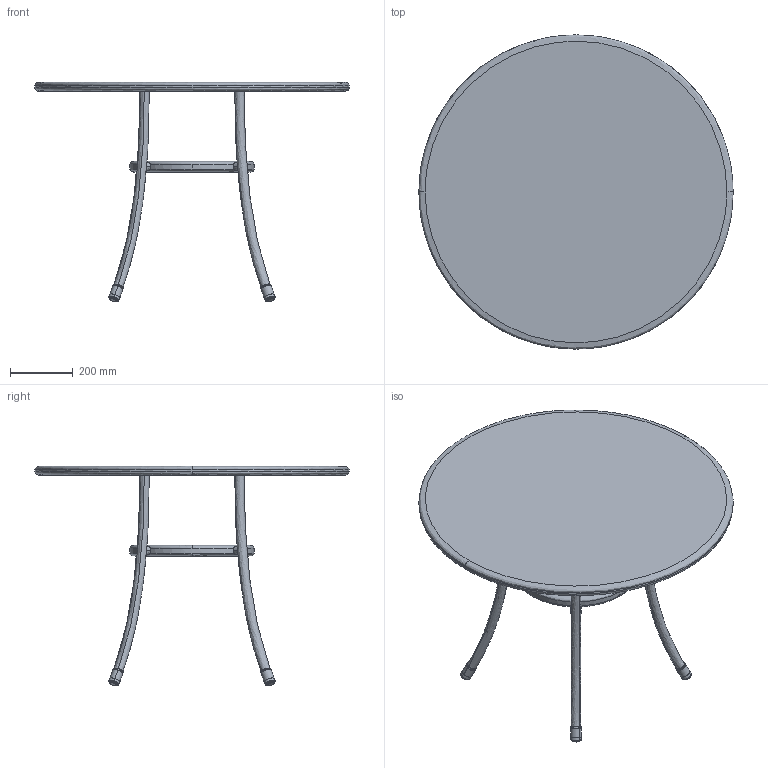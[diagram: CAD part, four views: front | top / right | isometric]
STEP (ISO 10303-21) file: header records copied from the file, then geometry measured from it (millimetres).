
FILE_DESCRIPTION(/* description */ (''),/* implementation_level */ '2;1');
FILE_NAME(/* name */ 'KINOSH~1',/* time_stamp */ '2019-07-19T09:51:52+09:00',/* author */ (''),/* organization */ (''),/* preprocessor_version */ 'ST-DEVELOPER v15',/* originating_system */ '',/* authorisation */ '');
FILE_SCHEMA (('AUTOMOTIVE_DESIGN'));
Length unit declared in the file: millimetre
Products named in the file (1): Document
Bounding box: 1000 x 1000 x 700 mm (x, y, z)
Volume: 29524136 mm3; surface area: 2212595.3 mm2
Topology: 14 solids, 14 shells, 156 faces, 304 edges, 184 vertices
Faces by surface type: bspline 128, plane 28
Entity records: 12451 total; most frequent: CARTESIAN_POINT 10623, ORIENTED_EDGE 608, EDGE_CURVE 304, VERTEX_POINT 184, EDGE_LOOP 164, ADVANCED_FACE 156, FACE_OUTER_BOUND 156, B_SPLINE_CURVE_WITH_KNOTS 100
